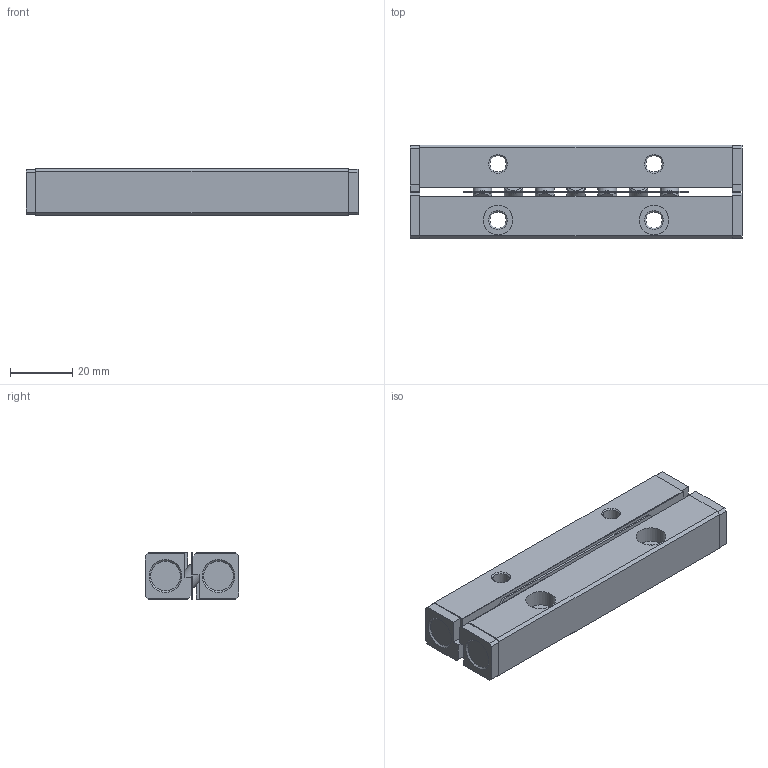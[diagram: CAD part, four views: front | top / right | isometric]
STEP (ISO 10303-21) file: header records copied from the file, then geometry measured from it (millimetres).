
FILE_DESCRIPTION(/* description */ ('Unknown'),/* implementation_level */ '2;1');
FILE_NAME(/* name */ 'VR6-100x7Z',/* time_stamp */ '2025-06-12T09:18:02+08:00',/* author */ ('Unknown'),/* organization */ ('Unknown'),/* preprocessor_version */ 'ST-DEVELOPER v18.102',/* originating_system */ 'Solid Edge',/* authorisation */ 'Unknown');
FILE_SCHEMA (('AUTOMOTIVE_DESIGN {1 0 10303 214 3 1 1}'));
Length unit declared in the file: millimetre
Products named in the file (3): VR6-100x7Z; VR6-100_7Z Roller guide; VR6-100_7Z Roller cage
Assembly tree (3 placements, depth 2):
  VR6-100x7Z
    VR6-100_7Z Roller guide  x2
    VR6-100_7Z Roller cage
Bounding box: 106.4 x 30 x 15 mm (x, y, z)
Volume: 40638.6 mm3; surface area: 17123 mm2
Topology: 3 solids, 3 shells, 185 faces, 483 edges, 312 vertices
Faces by surface type: plane 144, cone 26, cylinder 15
Full cylindrical faces by diameter (mm): 5.2 x4, 6 x7, 9.5 x4
Entity records: 4174 total; most frequent: CARTESIAN_POINT 705, DIRECTION 683, ORIENTED_EDGE 662, EDGE_CURVE 331, LINE 259, VECTOR 259, VERTEX_POINT 234, AXIS2_PLACEMENT_3D 212
